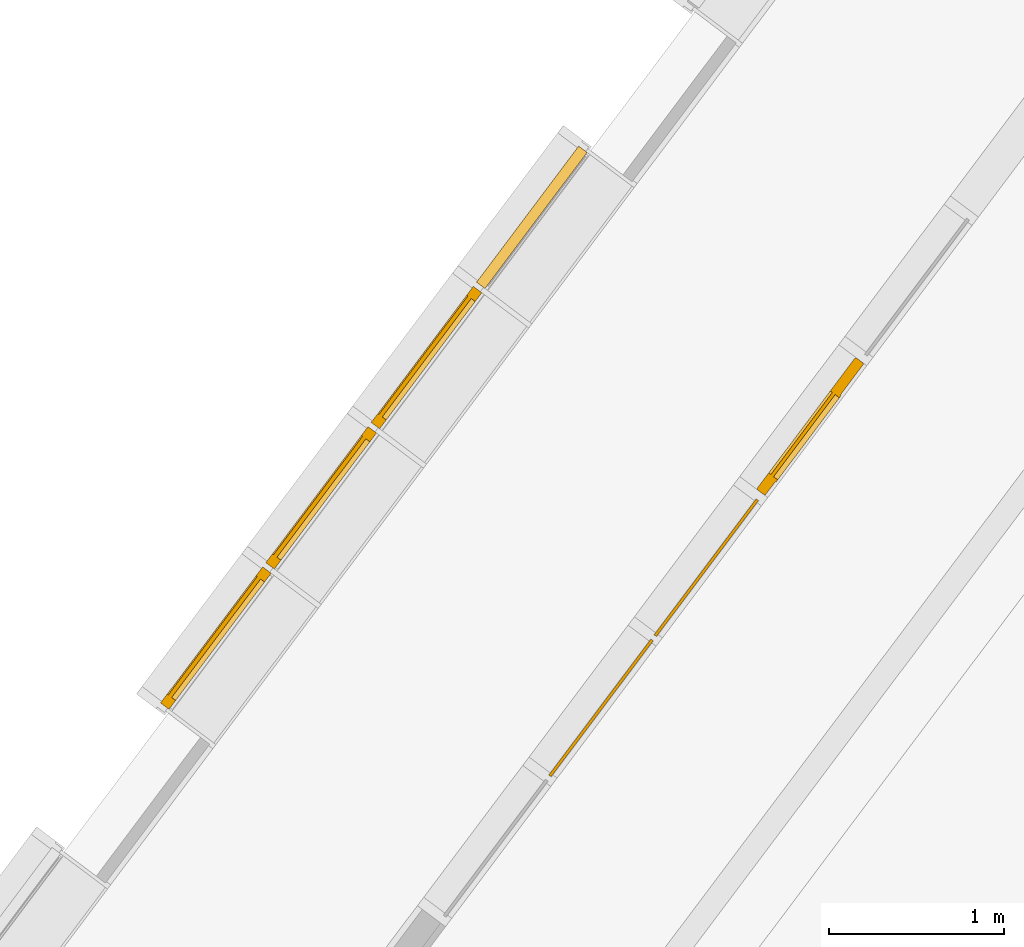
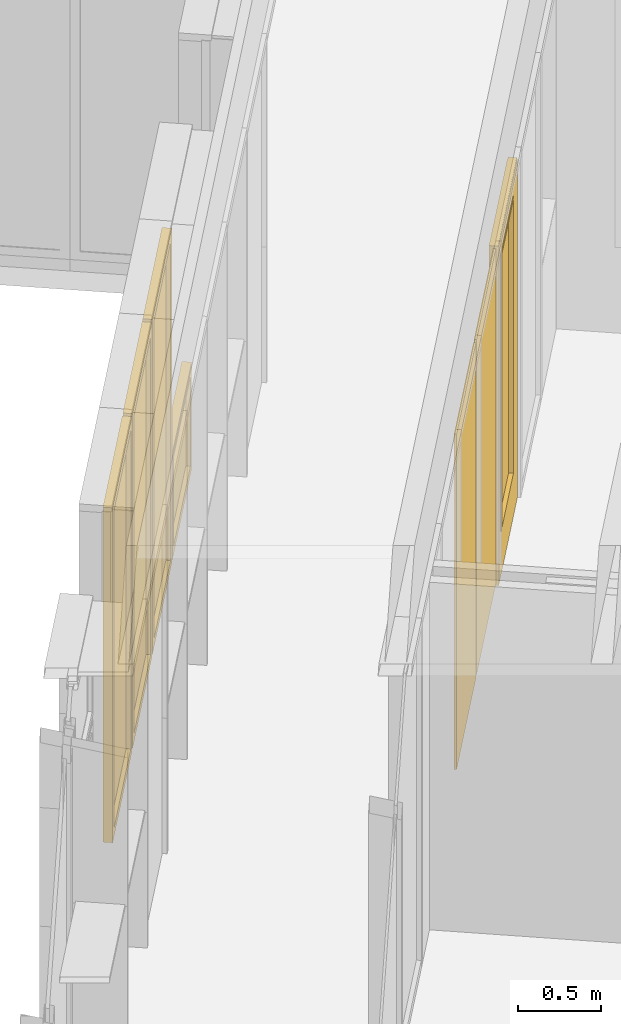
# One storey, part 194 of 243: 6 windows, 1 door, 2 elements without a shape of their own.
"""IFC2X3 building model written with IfcOpenShell, lengths in metres."""

from ifc_helpers import new_model, entity, si_unit, converted_unit, derived_unit, direction, frame, origin, origin_2d_with_axis, place, context, subcontext, project, spatial, rectangle, extrude, faceted_brep, source, transform, mapped, material, material_list, type_object, type_shapes, element, aggregate, save


model = new_model("IFC2X3")

# Units and contexts
model_context = context("Model", 3, precision=1e-05, world=origin(), true_north=direction((6.123031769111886e-17, 1.0)))
body_context = subcontext(model_context, "Body", "Model", "MODEL_VIEW")
ifc_project = project(units=[si_unit("LENGTHUNIT", "METRE"), si_unit("AREAUNIT", "SQUARE_METRE"), si_unit("VOLUMEUNIT", "CUBIC_METRE"), converted_unit("PLANEANGLEUNIT", "DEGREE", entity("IfcRatioMeasure", 0.017453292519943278), si_unit("PLANEANGLEUNIT", "RADIAN"), dimensions=[0, 0, 0, 0, 0, 0, 0]), si_unit("MASSUNIT", "GRAM", prefix="KILO"), derived_unit("MASSDENSITYUNIT", [(si_unit("MASSUNIT", "GRAM", prefix="KILO"), 1), (si_unit("LENGTHUNIT", "METRE"), -3)]), derived_unit("IONCONCENTRATIONUNIT", [(si_unit("MASSUNIT", "GRAM", prefix="KILO"), 1), (si_unit("LENGTHUNIT", "METRE"), -3)]), derived_unit("MOMENTOFINERTIAUNIT", [(si_unit("LENGTHUNIT", "METRE"), 4)]), si_unit("TIMEUNIT", "SECOND"), si_unit("FREQUENCYUNIT", "HERTZ"), si_unit("THERMODYNAMICTEMPERATUREUNIT", "DEGREE_CELSIUS"), derived_unit("THERMALTRANSMITTANCEUNIT", [(si_unit("MASSUNIT", "GRAM", prefix="KILO"), 1), (si_unit("THERMODYNAMICTEMPERATUREUNIT", "KELVIN"), -1), (si_unit("TIMEUNIT", "SECOND"), -3)]), derived_unit("THERMALCONDUCTANCEUNIT", [(si_unit("MASSUNIT", "GRAM", prefix="KILO"), 1), (si_unit("THERMODYNAMICTEMPERATUREUNIT", "KELVIN"), -1), (si_unit("TIMEUNIT", "SECOND"), -3), (si_unit("LENGTHUNIT", "METRE"), 1)]), derived_unit("VOLUMETRICFLOWRATEUNIT", [(si_unit("LENGTHUNIT", "METRE"), 3), (si_unit("TIMEUNIT", "SECOND"), -1)]), derived_unit("MASSFLOWRATEUNIT", [(si_unit("MASSUNIT", "GRAM", prefix="KILO"), 1), (si_unit("TIMEUNIT", "SECOND"), -1)]), derived_unit("ROTATIONALFREQUENCYUNIT", [(si_unit("TIMEUNIT", "SECOND"), -1)]), si_unit("ELECTRICCURRENTUNIT", "AMPERE"), si_unit("ELECTRICVOLTAGEUNIT", "VOLT"), si_unit("POWERUNIT", "WATT"), si_unit("FORCEUNIT", "NEWTON", prefix="KILO"), si_unit("ILLUMINANCEUNIT", "LUX"), si_unit("LUMINOUSFLUXUNIT", "LUMEN"), si_unit("LUMINOUSINTENSITYUNIT", "CANDELA"), derived_unit("USERDEFINED", [(si_unit("MASSUNIT", "GRAM", prefix="KILO"), -1), (si_unit("LENGTHUNIT", "METRE"), -2), (si_unit("TIMEUNIT", "SECOND"), 3), (si_unit("LUMINOUSFLUXUNIT", "LUMEN"), 1)]), derived_unit("USERDEFINED", [(si_unit("MASSUNIT", "GRAM", prefix="KILO"), 1), (si_unit("TIMEUNIT", "SECOND"), -3), (si_unit("LENGTHUNIT", "METRE"), 3), (si_unit("ELECTRICCURRENTUNIT", "AMPERE"), -2)]), derived_unit("SOUNDPOWERUNIT", [(si_unit("MASSUNIT", "GRAM", prefix="KILO"), 1), (si_unit("TIMEUNIT", "SECOND"), -3), (si_unit("LENGTHUNIT", "METRE"), 2)]), derived_unit("SOUNDPRESSUREUNIT", [(si_unit("MASSUNIT", "GRAM", prefix="KILO"), 1), (si_unit("LENGTHUNIT", "METRE"), -1), (si_unit("TIMEUNIT", "SECOND"), -2)]), derived_unit("LINEARVELOCITYUNIT", [(si_unit("LENGTHUNIT", "METRE"), 1), (si_unit("TIMEUNIT", "SECOND"), -1)]), si_unit("PRESSUREUNIT", "PASCAL"), derived_unit("USERDEFINED", [(si_unit("MASSUNIT", "GRAM", prefix="KILO"), 1), (si_unit("LENGTHUNIT", "METRE"), -2), (si_unit("TIMEUNIT", "SECOND"), -2)]), derived_unit("LINEARFORCEUNIT", [(si_unit("MASSUNIT", "GRAM", prefix="KILO"), 1), (si_unit("TIMEUNIT", "SECOND"), -2)]), derived_unit("PLANARFORCEUNIT", [(si_unit("MASSUNIT", "GRAM", prefix="KILO"), 1), (si_unit("LENGTHUNIT", "METRE"), -1), (si_unit("TIMEUNIT", "SECOND"), -2)]), derived_unit("SPECIFICHEATCAPACITYUNIT", [(si_unit("THERMODYNAMICTEMPERATUREUNIT", "KELVIN"), -1), (si_unit("LENGTHUNIT", "METRE"), 2), (si_unit("TIMEUNIT", "SECOND"), -2)]), derived_unit("HEATINGVALUEUNIT", [(si_unit("LENGTHUNIT", "METRE"), 2), (si_unit("TIMEUNIT", "SECOND"), -2)]), derived_unit("VAPORPERMEABILITYUNIT", [(si_unit("LENGTHUNIT", "METRE"), -1), (si_unit("TIMEUNIT", "SECOND"), 1)]), derived_unit("DYNAMICVISCOSITYUNIT", [(si_unit("MASSUNIT", "GRAM", prefix="KILO"), 1), (si_unit("TIMEUNIT", "SECOND"), -1), (si_unit("LENGTHUNIT", "METRE"), -1)]), derived_unit("THERMALEXPANSIONCOEFFICIENTUNIT", [(si_unit("THERMODYNAMICTEMPERATUREUNIT", "KELVIN"), -1)]), derived_unit("MODULUSOFELASTICITYUNIT", [(si_unit("MASSUNIT", "GRAM", prefix="KILO"), 1), (si_unit("LENGTHUNIT", "METRE"), -1), (si_unit("TIMEUNIT", "SECOND"), -2)]), derived_unit("ISOTHERMALMOISTURECAPACITYUNIT", [(si_unit("LENGTHUNIT", "METRE"), 3), (si_unit("MASSUNIT", "GRAM", prefix="KILO"), -1)]), derived_unit("MOISTUREDIFFUSIVITYUNIT", [(si_unit("TIMEUNIT", "SECOND"), -1), (si_unit("LENGTHUNIT", "METRE"), 2)])], contexts=[model_context])

# Site, building, storey
site_placement = place(None, frame((0.0, 0.0, 235.0), z_axis=(0.0, 0.0, 1.0), x_axis=(-0.7996477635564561, 0.6004693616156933, 0.0)))
site = spatial("IfcSite", under=ifc_project, at=site_placement, Name="Default", CompositionType="ELEMENT")
building_placement = place(site_placement, origin())
building = spatial("IfcBuilding", under=site, at=building_placement, CompositionType="ELEMENT")
storey_placement = place(building_placement, origin())
storey = spatial("IfcBuildingStorey", under=building, at=storey_placement, Name="P0- Escola", CompositionType="ELEMENT", Elevation=0.0)

# Curtain wall, windows, door
curtain_wall_type_1 = type_object("IfcCurtainWallType", Name="Muro cortina:MC- INT- a1", PredefinedType="NOTDEFINED")
curtain_wall_1_placement = place(storey_placement, origin())
curtain_wall_1 = element("IfcCurtainWall", 1, at=curtain_wall_1_placement, inside=storey, type_object=curtain_wall_type_1, Name="Muro cortina:MC- INT- a1", ObjectType="Muro cortina:MC- INT- a1")
ifc_material_1 = material(Name="_Vidre")
window_style_1 = type_object("IfcWindowStyle", Name="MC- Fusta- vidre fix:MC- Fusta- vidre fix", ConstructionType="NOTDEFINED", OperationType="NOTDEFINED", ParameterTakesPrecedence=False, Sizeable=False, material=ifc_material_1)
shared_shape_1 = source(origin(), body_context, "Body", "SweptSolid", [
    extrude(rectangle(XDim=0.9699999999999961, YDim=0.015999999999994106, at=origin_2d_with_axis()), frame((0.0, 0.0, 0.0), z_axis=(0.0, 0.0, 1.0), x_axis=(-1.0, 0.0, 0.0)), (0.0, 0.0, 1.0), 2.475),
])
type_shapes(window_style_1, [shared_shape_1])
window_1_placement = place(curtain_wall_1_placement, frame((60.020147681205, -31.915189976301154, 0.045000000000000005), z_axis=(0.0, 0.0, 1.0), x_axis=(0.0, -1.0, 0.0)))
window_1 = element("IfcWindow", 2, at=window_1_placement, type_object=window_style_1, material=ifc_material_1, Name="MC- Fusta- vidre fix:MC- Fusta- vidre fix", ObjectType="MC- Fusta- vidre fix:MC- Fusta- vidre fix", OverallHeight=2.475, OverallWidth=0.9699999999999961, context=body_context, shape_type="MappedRepresentation", body=[
    mapped(shared_shape_1, transform((0.0, 0.0, 0.0), scale=1.0)),
])
window_2_placement = place(curtain_wall_1_placement, frame((60.020147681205, -32.91518997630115, 0.045000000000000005), z_axis=(0.0, 0.0, 1.0), x_axis=(0.0, -1.0, 0.0)))
window_2 = element("IfcWindow", 3, at=window_2_placement, type_object=window_style_1, material=ifc_material_1, Name="MC- Fusta- vidre fix:MC- Fusta- vidre fix", ObjectType="MC- Fusta- vidre fix:MC- Fusta- vidre fix", OverallHeight=2.475, OverallWidth=0.9699999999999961, context=body_context, shape_type="MappedRepresentation", body=[
    mapped(shared_shape_1, transform((0.0, 0.0, 0.0), scale=1.0)),
])
ifc_material_2 = material(Name="_Fusta massisa- T1")
ifc_material_list_1 = material_list([ifc_material_2, ifc_material_1])
door_style = type_object("IfcDoorStyle", Name="MC- Fusta- conjunt porta:MC- Fusta- conjunt Porta aules", ConstructionType="NOTDEFINED", OperationType="NOTDEFINED", ParameterTakesPrecedence=False, Sizeable=False, material=ifc_material_list_1)
shared_shape_2 = source(origin(), body_context, "Body", "Brep", [
    faceted_brep([(0.24500000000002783, -0.024999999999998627, 2.3799999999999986), (0.24500000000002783, -0.024999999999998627, 0.3299999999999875), (0.24500000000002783, 0.0050000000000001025, 0.3299999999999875), (0.24500000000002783, 0.0050000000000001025, 2.3799999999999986), (-0.3700000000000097, -0.024999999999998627, 0.3299999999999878), (-0.3700000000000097, 0.0050000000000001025, 0.3299999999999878), (-0.37000000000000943, -0.024999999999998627, 2.3799999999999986), (-0.37000000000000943, 0.0050000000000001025, 2.3799999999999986), (0.23000000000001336, 0.0050000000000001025, 2.3650000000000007), (-0.35499999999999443, 0.0050000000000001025, 2.3650000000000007), (-0.35499999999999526, 0.0050000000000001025, 0.3449999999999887), (0.23000000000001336, 0.0050000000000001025, 0.34499999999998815), (0.23000000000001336, -0.024999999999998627, 2.3650000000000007), (0.23000000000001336, -0.024999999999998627, 0.34499999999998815), (-0.35499999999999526, -0.024999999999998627, 0.3449999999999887), (-0.35499999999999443, -0.024999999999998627, 2.3650000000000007)], [[[0, 1, 2, 3]], [[1, 4, 5, 2]], [[4, 6, 7, 5]], [[8, 9, 10, 11], [3, 2, 5, 7]], [[12, 13, 14, 15], [0, 6, 4, 1]], [[13, 12, 8, 11]], [[14, 13, 11, 10]], [[15, 14, 10, 9]], [[6, 0, 3, 7]], [[12, 15, 9, 8]]], outer=[[True], [True], [True], [False, True], [False, True], [True], [True], [True], [True], [True]]),
    faceted_brep([(0.43999999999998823, 0.03999999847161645, 0.0), (0.43999999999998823, 0.0099999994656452, 0.0), (0.4550000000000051, 0.0099999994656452, 0.0), (0.4550000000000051, -0.01999999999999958, 0.0), (-0.45499999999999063, -0.019999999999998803, 0.0), (-0.45499999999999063, 0.009999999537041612, 0.0), (-0.43999999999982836, 0.009999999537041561, 0.0), (-0.43999999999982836, 0.039999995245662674, 0.0), (0.45500000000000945, -0.01999999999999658, 2.4899999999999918), (-0.45499999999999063, -0.019999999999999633, 2.4899999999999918), (0.24500000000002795, -0.019999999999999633, 0.3300000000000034), (-0.37000000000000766, -0.019999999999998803, 0.3300000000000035), (-0.37000000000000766, -0.01999999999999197, 2.3799999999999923), (0.24500000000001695, -0.019999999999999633, 2.3799999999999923), (0.45500000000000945, 0.0099999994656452, 2.4899999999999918), (-0.45499999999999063, 0.0099999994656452, 2.4899999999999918), (0.43999999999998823, 0.03999999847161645, 2.4749999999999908), (0.43999999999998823, 0.0099999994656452, 2.4749999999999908), (-0.43999999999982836, 0.0099999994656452, 2.4749999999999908), (-0.43999999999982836, 0.039999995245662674, 2.4749999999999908), (-0.3549999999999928, 0.03999999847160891, 0.3450000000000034), (0.2300000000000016, 0.03999999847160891, 0.3450000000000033), (0.2300000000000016, 0.03999999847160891, 2.364999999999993), (-0.3549999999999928, 0.03999999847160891, 2.364999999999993), (-0.3549999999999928, 0.025000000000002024, 0.3450000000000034), (0.2300000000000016, 0.025000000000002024, 0.3450000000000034), (0.2300000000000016, 0.024999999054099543, 2.364999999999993), (-0.3549999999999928, 0.03999999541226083, 2.364999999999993), (-0.3549999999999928, 0.024999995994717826, 2.364999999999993), (0.2300000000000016, 0.025000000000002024, 2.364999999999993), (-0.37000000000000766, 0.025000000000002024, 0.3300000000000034), (0.24500000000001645, 0.025000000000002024, 0.3300000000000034), (0.24500000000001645, 0.025000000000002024, 2.3799999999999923), (-0.37000000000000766, 0.025000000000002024, 2.3799999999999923), (0.24500000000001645, 0.024999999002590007, 0.3300000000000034), (-0.37000000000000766, 0.02499999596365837, 2.3799999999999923), (0.24500000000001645, 0.024999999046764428, 2.3799999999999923)], [[[0, 1, 2, 3, 4, 5, 6, 7]], [[8, 9, 4, 3], [10, 11, 12, 13]], [[8, 3, 2, 14]], [[15, 5, 4, 9]], [[16, 17, 1, 0]], [[14, 2, 1, 17, 18, 6, 5, 15]], [[18, 19, 7, 6]], [[16, 0, 7, 19], [20, 21, 22, 23]], [[21, 20, 24, 25]], [[21, 25, 26, 22]], [[24, 20, 27, 28]], [[25, 24, 28, 29], [30, 31, 32, 33]], [[11, 10, 31, 30]], [[34, 10, 13, 32]], [[11, 30, 35, 12]], [[9, 8, 14, 15]], [[17, 16, 19, 18]], [[23, 22, 29, 28]], [[13, 12, 33, 36]]], outer=[[True], [True, False], [True], [True], [True], [True], [True], [True, False], [True], [True], [True], [False, True], [True], [True], [True], [True], [True], [True], [True]]),
    faceted_brep([(-0.37000000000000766, 0.024999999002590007, 0.3300000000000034), (0.2450000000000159, 0.024999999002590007, 0.3300000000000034), (0.2450000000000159, 0.0050000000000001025, 0.3300000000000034), (-0.37000000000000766, 0.0050000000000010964, 0.3300000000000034), (-0.37000000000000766, 0.024999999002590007, 2.380000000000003), (0.2450000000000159, 0.024999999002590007, 2.380000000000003), (0.2450000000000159, 0.0050000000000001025, 2.380000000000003), (-0.37000000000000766, 0.0050000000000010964, 2.380000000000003)], [[[0, 1, 2, 3]], [[4, 5, 1, 0]], [[5, 6, 2, 1]], [[6, 7, 3, 2]], [[7, 4, 0, 3]], [[4, 7, 6, 5]]]),
    faceted_brep([(0.46500000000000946, -0.01999999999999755, 0.0), (0.4550000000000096, -0.01999999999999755, 0.0), (0.4550000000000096, 0.010000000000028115, 0.0), (0.44000000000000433, 0.010000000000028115, 0.0), (0.44000000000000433, 0.0400000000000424, 0.0), (0.46500000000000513, 0.0400000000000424, 0.0), (0.46500000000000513, 0.03600000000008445, 0.0), (0.469999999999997, 0.03600000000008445, 0.0), (0.469999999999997, -0.015999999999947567, 0.0), (0.46500000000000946, -0.015999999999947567, 0.0), (0.46500000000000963, -0.01999999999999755, 2.5000000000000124), (-0.46500000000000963, -0.01999999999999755, 2.5000000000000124), (-0.46500000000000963, -0.01999999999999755, 0.0), (-0.45500000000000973, -0.01999999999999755, 0.0), (-0.45500000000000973, -0.01999999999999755, 2.4900000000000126), (0.4550000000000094, -0.01999999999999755, 2.490000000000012), (0.4550000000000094, 0.010000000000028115, 2.490000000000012), (-0.45500000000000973, 0.010000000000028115, 2.4900000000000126), (-0.45500000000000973, 0.010000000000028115, 0.0), (-0.4400000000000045, 0.010000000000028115, 0.0), (-0.4400000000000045, 0.010000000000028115, 2.4750000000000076), (0.4400000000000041, 0.010000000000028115, 2.4750000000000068), (0.4400000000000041, 0.0400000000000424, 2.4750000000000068), (-0.4400000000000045, 0.0400000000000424, 2.4750000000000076), (-0.4400000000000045, 0.0400000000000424, 0.0), (-0.4650000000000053, 0.0400000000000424, 0.0), (-0.4650000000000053, 0.0400000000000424, 2.5000000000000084), (0.46500000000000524, 0.0400000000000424, 2.5000000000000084), (0.46500000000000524, 0.03600000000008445, 2.5000000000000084), (-0.4650000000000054, 0.03600000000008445, 2.5000000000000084), (-0.4650000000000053, 0.03600000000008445, 0.0), (-0.4699999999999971, 0.03600000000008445, 0.0), (-0.4699999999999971, 0.03600000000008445, 2.5050000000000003), (0.46999999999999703, 0.03600000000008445, 2.5050000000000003), (0.46999999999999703, -0.015999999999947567, 2.5050000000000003), (-0.46999999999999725, -0.015999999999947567, 2.5050000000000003), (-0.4699999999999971, -0.015999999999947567, 0.0), (-0.46500000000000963, -0.015999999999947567, 0.0), (-0.46500000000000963, -0.015999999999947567, 2.5000000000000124), (0.4650000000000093, -0.015999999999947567, 2.500000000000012)], [[[0, 1, 2, 3, 4, 5, 6, 7, 8, 9]], [[1, 0, 10, 11, 12, 13, 14, 15]], [[2, 1, 15, 16]], [[3, 2, 16, 17, 18, 19, 20, 21]], [[4, 3, 21, 22]], [[5, 4, 22, 23, 24, 25, 26, 27]], [[6, 5, 27, 28]], [[7, 6, 28, 29, 30, 31, 32, 33]], [[8, 7, 33, 34]], [[9, 8, 34, 35, 36, 37, 38, 39]], [[0, 9, 39, 10]], [[11, 38, 37, 12]], [[12, 37, 36, 31, 30, 25, 24, 19, 18, 13]], [[17, 14, 13, 18]], [[23, 20, 19, 24]], [[29, 26, 25, 30]], [[35, 32, 31, 36]], [[16, 15, 14, 17]], [[22, 21, 20, 23]], [[28, 27, 26, 29]], [[34, 33, 32, 35]], [[10, 39, 38, 11]]]),
])
type_shapes(door_style, [shared_shape_2])
door_placement = place(curtain_wall_1_placement, frame((60.020147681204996, -33.91518997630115, 0.0), z_axis=(0.0, 0.0, 1.0), x_axis=(0.0, -1.0, 0.0)))
door = element("IfcDoor", 4, at=door_placement, type_object=door_style, material=ifc_material_list_1, Name="MC- Fusta- conjunt porta:MC- Fusta- conjunt Porta aules", ObjectType="MC- Fusta- conjunt porta:MC- Fusta- conjunt Porta aules", OverallHeight=2.5050000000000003, OverallWidth=0.9399999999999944, context=body_context, shape_type="MappedRepresentation", body=[
    mapped(shared_shape_2, transform((0.0, 0.0, 0.0), scale=1.0)),
])
aggregate(curtain_wall_1, [window_1, window_2, door])

# Curtain wall, windows
curtain_wall_type_2 = type_object("IfcCurtainWallType", Name="Muro cortina:MC- EXT- MC5", PredefinedType="NOTDEFINED")
curtain_wall_2_placement = place(storey_placement, origin())
curtain_wall_2 = element("IfcCurtainWall", 5, at=curtain_wall_2_placement, inside=storey, type_object=curtain_wall_type_2, Name="Muro cortina:MC- EXT- MC5", ObjectType="Muro cortina:MC- EXT- MC5")
ifc_material_3 = material(Name="_Alumini- T1- Perfil")
ifc_material_list_2 = material_list([ifc_material_1, ifc_material_3])
window_style_2 = type_object("IfcWindowStyle", Name="MC- Alu- Conjunt vidre fix- 62x60 cm:MC- Alu- Conjunt vidre fix- 62x60 cm", ConstructionType="NOTDEFINED", OperationType="NOTDEFINED", ParameterTakesPrecedence=False, Sizeable=False, material=ifc_material_list_2)
shared_shape_3 = source(origin(), body_context, "Body", "Brep", [
    faceted_brep([(-0.43619328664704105, -0.007600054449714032, 0.048806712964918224), (0.43619328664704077, -0.007600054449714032, 0.048806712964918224), (0.43619328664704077, -0.03160022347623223, 0.048806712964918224), (-0.43619328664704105, -0.03160022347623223, 0.048806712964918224), (-0.43619328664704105, -0.007600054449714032, 2.422449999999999), (0.43619328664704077, -0.007600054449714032, 2.422449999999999), (0.43619328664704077, -0.03160022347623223, 2.422449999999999), (-0.43619328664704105, -0.03160022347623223, 2.422449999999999)], [[[0, 1, 2, 3]], [[4, 5, 1, 0]], [[5, 6, 2, 1]], [[6, 7, 3, 2]], [[7, 4, 0, 3]], [[4, 7, 6, 5]]]),
    faceted_brep([(-0.4849999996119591, -0.05999999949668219, 2.471449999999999), (-0.4849999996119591, 0.0, 2.471449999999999), (-0.4849999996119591, 0.0, 0.0), (-0.48499999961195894, -0.05999999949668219, 0.0), (-0.4221931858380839, 0.0, 2.408643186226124), (-0.4221931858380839, 0.0, 0.06280681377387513), (0.42219318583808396, 0.0, 0.06280681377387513), (0.422193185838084, 0.0, 2.408643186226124), (0.4849999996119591, 0.0, 2.471449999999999), (0.4849999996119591, 0.0, 0.0), (0.48499999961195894, -0.05999999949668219, 0.0), (0.4849999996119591, -0.05999999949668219, 2.471449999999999), (0.42219603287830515, -0.05999999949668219, 2.408646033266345), (0.42219603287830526, -0.05999999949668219, 0.06280396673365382), (-0.42219603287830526, -0.05999999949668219, 0.06280396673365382), (-0.42219603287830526, -0.05999999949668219, 2.4086460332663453), (-0.42219603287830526, -0.03160022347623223, 2.4086460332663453), (-0.4221960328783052, -0.03160022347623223, 0.06280396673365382), (0.4221960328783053, -0.03160022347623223, 0.06280396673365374), (0.42219603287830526, -0.03160022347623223, 2.4086460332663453), (0.43619328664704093, -0.03160022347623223, 2.422643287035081), (0.43619328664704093, -0.03160022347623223, 0.048806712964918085), (-0.4361932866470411, -0.03160022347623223, 0.04880671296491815), (-0.43619328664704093, -0.03160022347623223, 2.422643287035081), (-0.43619328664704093, -0.007600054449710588, 2.422643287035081), (-0.4361932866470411, -0.007600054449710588, 0.04880671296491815), (0.43619328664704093, -0.007600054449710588, 0.048806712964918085), (0.43619328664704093, -0.007600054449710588, 2.422643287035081), (0.42219318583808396, -0.007600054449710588, 2.408643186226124), (0.42219318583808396, -0.007600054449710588, 0.06280681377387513), (-0.42219318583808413, -0.007600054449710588, 0.06280681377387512), (-0.4221931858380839, -0.007600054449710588, 2.408643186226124)], [[[0, 1, 2, 3]], [[4, 5, 6, 7], [8, 9, 2, 1]], [[3, 2, 9, 10]], [[0, 3, 10, 11], [12, 13, 14, 15]], [[16, 15, 14, 17]], [[17, 14, 13, 18]], [[16, 17, 18, 19], [20, 21, 22, 23]], [[24, 23, 22, 25]], [[25, 22, 21, 26]], [[24, 25, 26, 27], [28, 29, 30, 31]], [[4, 31, 30, 5]], [[5, 30, 29, 6]], [[10, 9, 8, 11]], [[18, 13, 12, 19]], [[26, 21, 20, 27]], [[6, 29, 28, 7]], [[11, 8, 1, 0]], [[19, 12, 15, 16]], [[27, 20, 23, 24]], [[7, 28, 31, 4]]], outer=[[True], [False, True], [True], [True, False], [True], [True], [False, True], [True], [True], [True, False], [True], [True], [True], [True], [True], [True], [True], [True], [True], [True]]),
])
type_shapes(window_style_2, [shared_shape_3])
window_3_placement = place(curtain_wall_2_placement, frame((62.045147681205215, -31.91519175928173, 0.03229999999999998), z_axis=(0.0, 0.0, 1.0), x_axis=(0.0, -1.0, 0.0)))
window_3 = element("IfcWindow", 6, at=window_3_placement, type_object=window_style_2, material=ifc_material_list_2, Name="MC- Alu- Conjunt vidre fix- 62x60 cm:MC- Alu- Conjunt vidre fix- 62x60 cm", ObjectType="MC- Alu- Conjunt vidre fix- 62x60 cm:MC- Alu- Conjunt vidre fix- 62x60 cm", OverallHeight=2.471449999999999, OverallWidth=0.9699999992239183, context=body_context, shape_type="MappedRepresentation", body=[
    mapped(shared_shape_3, transform((0.0, 0.0, 0.0), scale=1.0)),
])
window_4_placement = place(curtain_wall_2_placement, frame((62.045147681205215, -32.91519175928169, 0.03229999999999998), z_axis=(0.0, 0.0, 1.0), x_axis=(0.0, -1.0, 0.0)))
window_4 = element("IfcWindow", 7, at=window_4_placement, type_object=window_style_2, material=ifc_material_list_2, Name="MC- Alu- Conjunt vidre fix- 62x60 cm:MC- Alu- Conjunt vidre fix- 62x60 cm", ObjectType="MC- Alu- Conjunt vidre fix- 62x60 cm:MC- Alu- Conjunt vidre fix- 62x60 cm", OverallHeight=2.471449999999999, OverallWidth=0.9699999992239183, context=body_context, shape_type="MappedRepresentation", body=[
    mapped(shared_shape_3, transform((0.0, 0.0, 0.0), scale=1.0)),
])
window_style_3 = type_object("IfcWindowStyle", Name="MC- Alu- Conjunt vidre fix- 62x60 cm:MC- Alu- Conjunt vidre fix- 62x60 cm", ConstructionType="NOTDEFINED", OperationType="NOTDEFINED", ParameterTakesPrecedence=False, Sizeable=False, material=ifc_material_list_2)
shared_shape_4 = source(origin(), body_context, "Body", "Brep", [
    faceted_brep([(-0.43619328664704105, -0.007600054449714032, 0.048806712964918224), (0.43619328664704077, -0.007600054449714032, 0.048806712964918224), (0.43619328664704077, -0.03160022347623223, 0.048806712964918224), (-0.43619328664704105, -0.03160022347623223, 0.048806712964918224), (-0.43619328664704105, -0.007600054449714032, 0.7387000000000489), (0.43619328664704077, -0.007600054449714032, 0.7387000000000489), (0.43619328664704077, -0.03160022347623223, 0.7387000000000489), (-0.43619328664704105, -0.03160022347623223, 0.7387000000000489)], [[[0, 1, 2, 3]], [[4, 5, 1, 0]], [[5, 6, 2, 1]], [[6, 7, 3, 2]], [[7, 4, 0, 3]], [[4, 7, 6, 5]]]),
    faceted_brep([(-0.4849999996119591, -0.05999999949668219, 0.7877000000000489), (-0.4849999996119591, 0.0, 0.7877000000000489), (-0.4849999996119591, 0.0, 0.0), (-0.4849999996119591, -0.05999999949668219, 0.0), (-0.422193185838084, 0.0, 0.7248931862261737), (-0.4221931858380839, 0.0, 0.06280681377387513), (0.42219318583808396, 0.0, 0.06280681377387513), (0.42219318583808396, 0.0, 0.7248931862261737), (0.4849999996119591, 0.0, 0.7877000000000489), (0.4849999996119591, 0.0, 0.0), (0.4849999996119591, -0.05999999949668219, 0.0), (0.4849999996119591, -0.05999999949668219, 0.7877000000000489), (0.4221960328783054, -0.05999999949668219, 0.7248960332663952), (0.4221960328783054, -0.05999999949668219, 0.0628039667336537), (-0.4221960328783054, -0.05999999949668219, 0.0628039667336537), (-0.4221960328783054, -0.05999999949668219, 0.7248960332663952), (-0.4221960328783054, -0.03160022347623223, 0.7248960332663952), (-0.4221960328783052, -0.03160022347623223, 0.06280396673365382), (0.4221960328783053, -0.03160022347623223, 0.06280396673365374), (0.42219603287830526, -0.03160022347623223, 0.7248960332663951), (0.43619328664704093, -0.03160022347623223, 0.7388932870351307), (0.43619328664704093, -0.03160022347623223, 0.048806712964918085), (-0.43619328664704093, -0.03160022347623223, 0.04880671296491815), (-0.43619328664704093, -0.03160022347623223, 0.7388932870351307), (-0.43619328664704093, -0.007600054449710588, 0.7388932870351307), (-0.43619328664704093, -0.007600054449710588, 0.04880671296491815), (0.43619328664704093, -0.007600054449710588, 0.048806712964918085), (0.43619328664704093, -0.007600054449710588, 0.7388932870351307), (0.42219318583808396, -0.007600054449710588, 0.7248931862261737), (0.42219318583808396, -0.007600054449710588, 0.06280681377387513), (-0.42219318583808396, -0.007600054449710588, 0.06280681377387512), (-0.42219318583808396, -0.007600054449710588, 0.7248931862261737)], [[[0, 1, 2, 3]], [[4, 5, 6, 7], [8, 9, 2, 1]], [[3, 2, 9, 10]], [[0, 3, 10, 11], [12, 13, 14, 15]], [[16, 15, 14, 17]], [[17, 14, 13, 18]], [[16, 17, 18, 19], [20, 21, 22, 23]], [[24, 23, 22, 25]], [[25, 22, 21, 26]], [[24, 25, 26, 27], [28, 29, 30, 31]], [[4, 31, 30, 5]], [[5, 30, 29, 6]], [[10, 9, 8, 11]], [[18, 13, 12, 19]], [[26, 21, 20, 27]], [[6, 29, 28, 7]], [[11, 8, 1, 0]], [[19, 12, 15, 16]], [[27, 20, 23, 24]], [[7, 28, 31, 4]]], outer=[[True], [False, True], [True], [True, False], [True], [True], [False, True], [True], [True], [True, False], [True], [True], [True], [True], [True], [True], [True], [True], [True], [True]]),
])
type_shapes(window_style_3, [shared_shape_4])
window_5_placement = place(curtain_wall_2_placement, frame((62.04514768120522, -33.915191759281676, 0.03229999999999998), z_axis=(0.0, 0.0, 1.0), x_axis=(0.0, -1.0, 0.0)))
window_5 = element("IfcWindow", 8, at=window_5_placement, type_object=window_style_3, material=ifc_material_list_2, Name="MC- Alu- Conjunt vidre fix- 62x60 cm:MC- Alu- Conjunt vidre fix- 62x60 cm", ObjectType="MC- Alu- Conjunt vidre fix- 62x60 cm:MC- Alu- Conjunt vidre fix- 62x60 cm", OverallHeight=0.7877000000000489, OverallWidth=0.9699999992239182, context=body_context, shape_type="MappedRepresentation", body=[
    mapped(shared_shape_4, transform((0.0, 0.0, 0.0), scale=1.0)),
])
window_style_4 = type_object("IfcWindowStyle", Name="MC- Alu- Conjunt vidre fix- 62x60 cm:MC- Alu- Conjunt vidre fix- 62x60 cm", ConstructionType="NOTDEFINED", OperationType="NOTDEFINED", ParameterTakesPrecedence=False, Sizeable=False, material=ifc_material_list_2)
shared_shape_5 = source(origin(), body_context, "Body", "Brep", [
    faceted_brep([(0.43619328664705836, -0.007600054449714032, 0.048806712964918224), (0.43619328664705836, -0.03160022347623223, 0.048806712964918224), (-0.4361932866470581, -0.03160022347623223, 0.048806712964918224), (-0.4361932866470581, -0.007600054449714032, 0.048806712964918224), (0.43619328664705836, -0.007600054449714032, 2.422449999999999), (-0.4361932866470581, -0.007600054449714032, 2.422449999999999), (-0.4361932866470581, -0.03160022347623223, 2.422449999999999), (0.43619328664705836, -0.03160022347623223, 2.422449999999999)], [[[0, 1, 2, 3]], [[4, 0, 3, 5]], [[5, 3, 2, 6]], [[6, 2, 1, 7]], [[7, 1, 0, 4]], [[4, 5, 6, 7]]]),
    faceted_brep([(0.48499999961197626, -0.05999999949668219, 2.471449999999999), (0.48499999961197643, -0.05999999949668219, 0.0), (0.48499999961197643, 0.0, 0.0), (0.48499999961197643, 0.0, 2.471449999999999), (-0.48499999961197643, 0.0, 2.471449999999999), (-0.48499999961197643, 0.0, 0.0), (0.4221931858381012, 0.0, 2.408643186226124), (-0.4221931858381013, 0.0, 2.408643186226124), (-0.4221931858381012, 0.0, 0.06280681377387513), (0.4221931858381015, 0.0, 0.06280681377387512), (-0.48499999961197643, -0.05999999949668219, 0.0), (-0.4849999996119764, -0.05999999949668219, 2.471449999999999), (-0.4221960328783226, -0.05999999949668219, 2.4086460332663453), (0.4221960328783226, -0.05999999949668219, 2.4086460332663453), (0.4221960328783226, -0.05999999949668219, 0.06280396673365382), (-0.4221960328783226, -0.05999999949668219, 0.06280396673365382), (0.42219603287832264, -0.03160022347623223, 2.4086460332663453), (0.4221960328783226, -0.03160022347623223, 0.06280396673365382), (-0.4221960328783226, -0.03160022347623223, 0.06280396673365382), (-0.4221960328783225, -0.03160022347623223, 2.4086460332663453), (-0.43619328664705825, -0.03160022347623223, 2.422643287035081), (0.43619328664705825, -0.03160022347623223, 2.422643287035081), (0.43619328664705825, -0.03160022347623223, 0.048806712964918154), (-0.43619328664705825, -0.03160022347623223, 0.04880671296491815), (0.43619328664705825, -0.007600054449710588, 2.422643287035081), (0.4361932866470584, -0.007600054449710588, 0.04880671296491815), (-0.43619328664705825, -0.007600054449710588, 0.048806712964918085), (-0.43619328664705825, -0.007600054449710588, 2.422643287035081), (-0.4221931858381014, -0.007600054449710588, 2.408643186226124), (0.4221931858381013, -0.007600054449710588, 2.408643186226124), (0.4221931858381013, -0.007600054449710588, 0.06280681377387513), (-0.4221931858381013, -0.007600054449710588, 0.06280681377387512)], [[[0, 1, 2, 3]], [[4, 3, 2, 5], [6, 7, 8, 9]], [[1, 10, 5, 2]], [[0, 11, 10, 1], [12, 13, 14, 15]], [[16, 17, 14, 13]], [[17, 18, 15, 14]], [[16, 19, 18, 17], [20, 21, 22, 23]], [[24, 25, 22, 21]], [[25, 26, 23, 22]], [[24, 27, 26, 25], [28, 29, 30, 31]], [[6, 9, 30, 29]], [[9, 8, 31, 30]], [[10, 11, 4, 5]], [[18, 19, 12, 15]], [[26, 27, 20, 23]], [[8, 7, 28, 31]], [[11, 0, 3, 4]], [[19, 16, 13, 12]], [[27, 24, 21, 20]], [[7, 6, 29, 28]]], outer=[[True], [True, False], [True], [True, False], [True], [True], [False, True], [True], [True], [True, False], [True], [True], [True], [True], [True], [True], [True], [True], [True], [True]]),
])
type_shapes(window_style_4, [shared_shape_5])
window_6_placement = place(curtain_wall_2_placement, frame((62.045147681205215, -30.91519175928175, 0.03229999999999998), z_axis=(0.0, 0.0, 1.0), x_axis=(0.0, -1.0, 0.0)))
window_6 = element("IfcWindow", 9, at=window_6_placement, type_object=window_style_4, material=ifc_material_list_2, Name="MC- Alu- Conjunt vidre fix- 62x60 cm:MC- Alu- Conjunt vidre fix- 62x60 cm", ObjectType="MC- Alu- Conjunt vidre fix- 62x60 cm:MC- Alu- Conjunt vidre fix- 62x60 cm", OverallHeight=2.471449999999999, OverallWidth=0.969999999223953, context=body_context, shape_type="MappedRepresentation", body=[
    mapped(shared_shape_5, transform((0.0, 0.0, 0.0), scale=1.0)),
])
aggregate(curtain_wall_2, [window_6, window_3, window_4, window_5])

save(model, "model.ifc")
